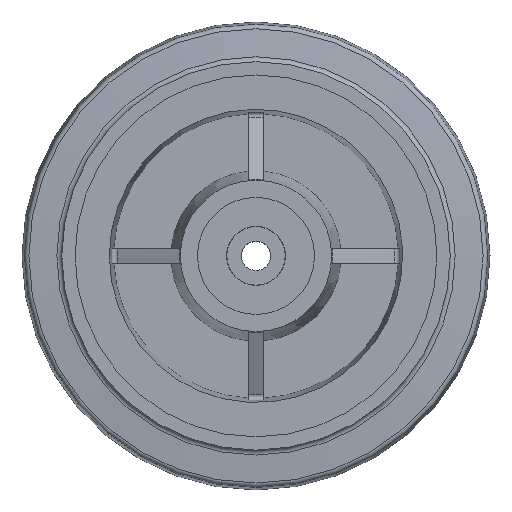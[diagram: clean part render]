
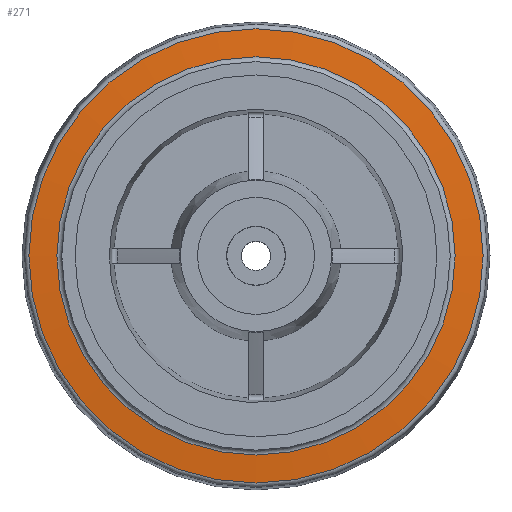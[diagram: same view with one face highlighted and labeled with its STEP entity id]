
A CAD part, top view. The second image highlights one B-rep face of the part: STEP entity #271.
In plain terms, the highlighted conical face has half-angle 85 degrees and reference radius 73.958 mm.
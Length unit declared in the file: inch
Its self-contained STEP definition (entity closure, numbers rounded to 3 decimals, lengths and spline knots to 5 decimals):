
#271 = ADVANCED_FACE( '', ( #537, #538 ), #539, .T. );
#537 = FACE_BOUND( '', #859, .T. );
#538 = FACE_OUTER_BOUND( '', #860, .T. );
#539 = CONICAL_SURFACE( '', #861, 2.91174, 1.484 );
#859 = EDGE_LOOP( '', ( #1269 ) );
#860 = EDGE_LOOP( '', ( #1270 ) );
#861 = AXIS2_PLACEMENT_3D( '', #1271, #1272, #1273 );
#1269 = ORIENTED_EDGE( '', *, *, #1864, .T. );
#1270 = ORIENTED_EDGE( '', *, *, #1865, .F. );
#1271 = CARTESIAN_POINT( '', ( 0., 0., 0.65607 ) );
#1272 = DIRECTION( '', ( 0., 0., -1. ) );
#1273 = DIRECTION( '', ( -1., 0., 0. ) );
#1864 = EDGE_CURVE( '', #2191, #2191, #2192, .T. );
#1865 = EDGE_CURVE( '', #2193, #2193, #2194, .T. );
#2191 = VERTEX_POINT( '', #2786 );
#2192 = CIRCLE( '', #2787, 2.5525 );
#2193 = VERTEX_POINT( '', #2788 );
#2194 = CIRCLE( '', #2789, 2.91174 );
#2786 = CARTESIAN_POINT( '', ( -2.5525, 0., 0.6875 ) );
#2787 = AXIS2_PLACEMENT_3D( '', #3287, #3288, #3289 );
#2788 = CARTESIAN_POINT( '', ( -2.91174, 0., 0.65607 ) );
#2789 = AXIS2_PLACEMENT_3D( '', #3290, #3291, #3292 );
#3287 = CARTESIAN_POINT( '', ( 0., 0., 0.6875 ) );
#3288 = DIRECTION( '', ( 0., 0., -1. ) );
#3289 = DIRECTION( '', ( -1., 0., 0. ) );
#3290 = CARTESIAN_POINT( '', ( 0., 0., 0.65607 ) );
#3291 = DIRECTION( '', ( 0., 0., -1. ) );
#3292 = DIRECTION( '', ( -1., 0., 0. ) );
